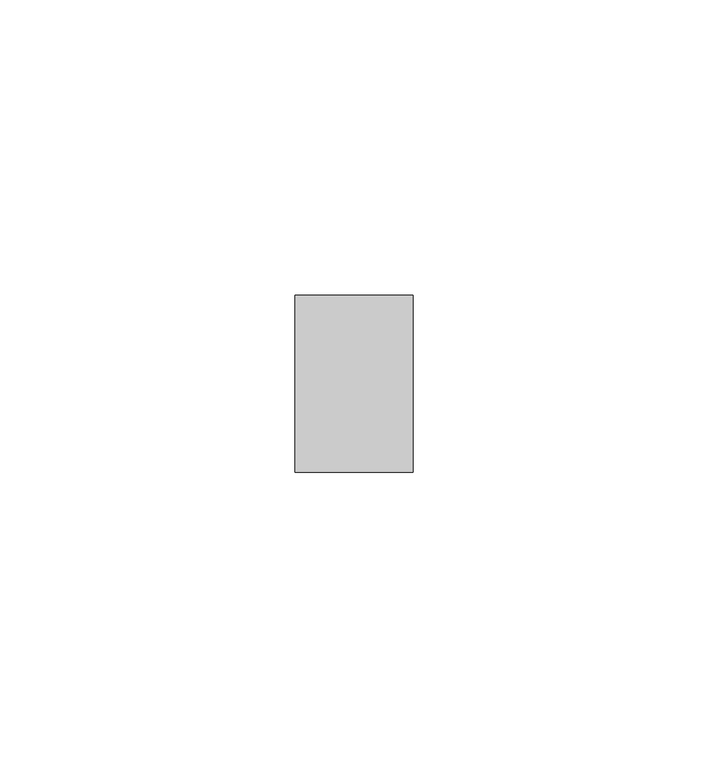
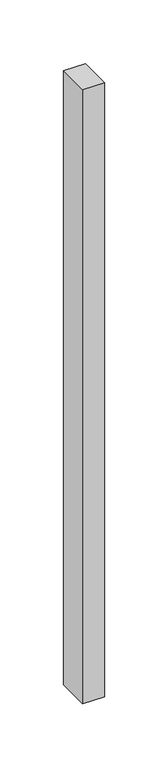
"""IFC4 building model written with IfcOpenShell, lengths in millimetres: member geometry, Прямоугольный импост : Квадрат 10 мм - Зазор между навесными плитами."""

from ifc_helpers import new_model, si_unit, frame, origin, place, context, project, spatial, polyline, outline, extrude, source, transform, mapped, element, save


def member_5f70325a(model_context):
    return source(origin(), model_context, "Body", "SweptSolid", [
        extrude(outline(polyline([(0.0, 15.0), (0.0, -15.0), (-20.0, -15.0), (-20.0, 15.0), (0.0, 15.0)])), frame((0.0, 0.0, -590.0), z_axis=(0.0, 0.0, 1.0), x_axis=(1.0, 0.0, 0.0)), (0.0, 0.0, 1.0), 590.0),
    ])


if __name__ == "__main__":
    model = new_model("IFC4")
    model_context = context("Model", 3, world=origin())
    ifc_project = project(units=[si_unit("LENGTHUNIT", "METRE", prefix="MILLI")], contexts=[model_context])
    site = spatial("IfcSite", under=ifc_project)
    building = spatial("IfcBuilding", under=site)
    placement = place(None, origin())
    member_shape = member_5f70325a(model_context)
    element("IfcMember", 1, ObjectType="Прямоугольный импост : Квадрат 10 мм - Зазор между навесными плитами", at=placement, inside=building, context=model_context, shape_type="MappedRepresentation", body=[
        mapped(member_shape, transform((0.0, 0.0, 0.0), x_axis=(1.0, 0.0, 0.0), y_axis=(0.0, 1.0, 0.0), z_axis=(0.0, 0.0, 1.0))),
    ])
    save(model, "model.ifc")
